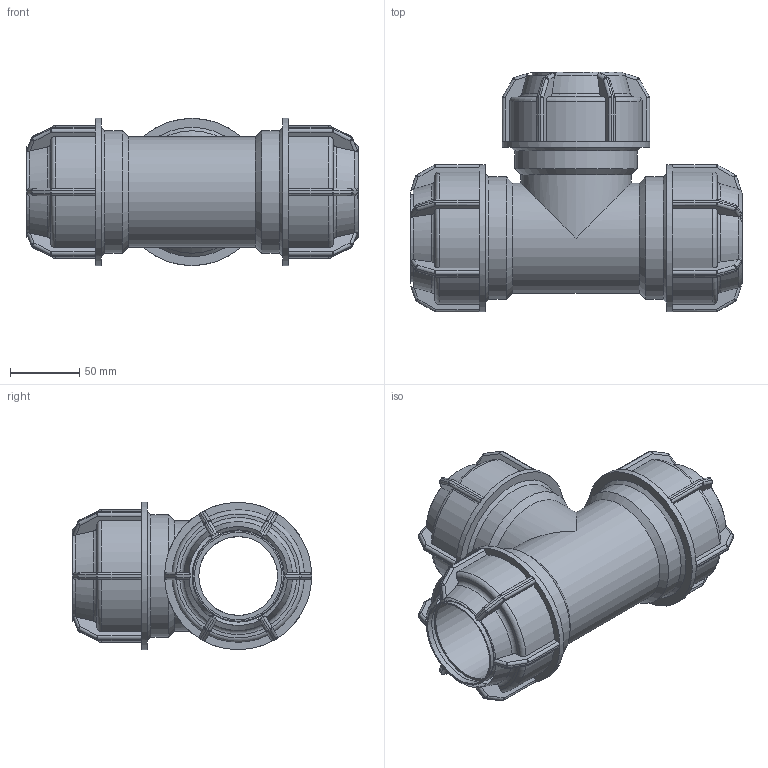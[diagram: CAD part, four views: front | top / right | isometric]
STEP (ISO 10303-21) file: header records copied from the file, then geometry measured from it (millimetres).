
FILE_DESCRIPTION(/* description */ ('PLASSON L.14 TEE (SILVER) 63-63-63'),/* implementation_level */ '2;1');
FILE_NAME(/* name */ 'C:\Dropbox\KIMPROJECTS-Inventor\99-16-3568-Processing\Silver+MF ISRAEL\140400\140400063.ipt.stp',/* time_stamp */ '2018-04-09T13:03:44+03:00',/* author */ ('KIM'),/* organization */ (''),/* preprocessor_version */ 'ST-DEVELOPER v15.6',/* originating_system */ 'Autodesk Inventor 2015',/* authorisation */ '');
FILE_SCHEMA (('AUTOMOTIVE_DESIGN { 1 0 10303 214 3 1 1 }'));
Length unit declared in the file: millimetre
Products named in the file (1): 140400063
Bounding box: 239 x 172.5 x 106 mm (x, y, z)
Volume: 936712.2 mm3; surface area: 179864.7 mm2
Topology: 1 solids, 1 shells, 608 faces, 1458 edges, 841 vertices
Faces by surface type: plane 289, cylinder 178, sphere 72, torus 42, cone 27
Full cylindrical faces by diameter (mm): 56.7 x2, 63 x6, 79.38 x2, 88.2 x3, 106 x3
Entity records: 17612 total; most frequent: CARTESIAN_POINT 4504, DIRECTION 2760, ORIENTED_EDGE 2708, EDGE_CURVE 1354, AXIS2_PLACEMENT_3D 1110, VERTEX_POINT 796, EDGE_LOOP 646, FACE_OUTER_BOUND 601
